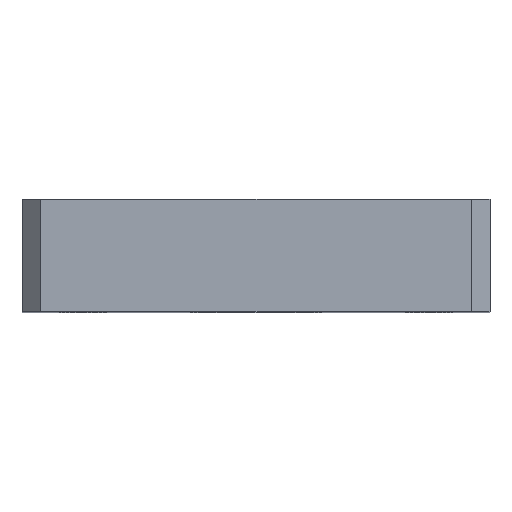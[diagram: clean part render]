
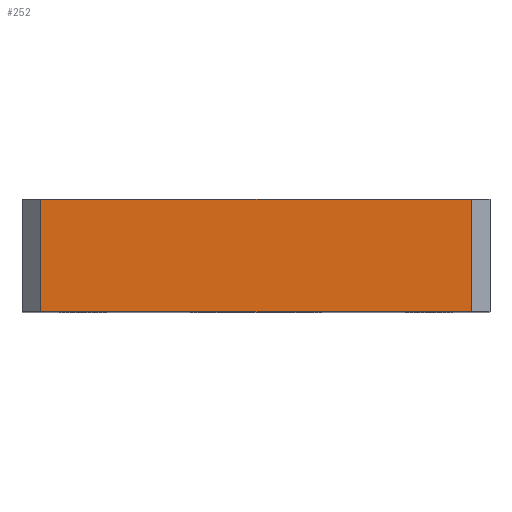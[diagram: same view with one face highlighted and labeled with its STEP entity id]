
A CAD part, top view. The second image highlights one B-rep face of the part: STEP entity #252.
In plain terms, the highlighted planar face has unit normal (0, 0, 1).
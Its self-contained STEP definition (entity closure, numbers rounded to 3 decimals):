
#47 = DIRECTION ( 'NONE',  ( -1., 0., 0. ) ) ;
#60 = LINE ( 'NONE', #290, #62 ) ;
#62 = VECTOR ( 'NONE', #510, 1000. ) ;
#69 = ORIENTED_EDGE ( 'NONE', *, *, #542, .T. ) ;
#74 = VECTOR ( 'NONE', #83, 1000. ) ;
#83 = DIRECTION ( 'NONE',  ( 1., 0., 0. ) ) ;
#87 = DIRECTION ( 'NONE',  ( 0., -1., 0. ) ) ;
#101 = CARTESIAN_POINT ( 'NONE',  ( 25., 12., 25. ) ) ;
#129 = EDGE_CURVE ( 'NONE', #173, #662, #474, .T. ) ;
#134 = VERTEX_POINT ( 'NONE', #596 ) ;
#161 = EDGE_LOOP ( 'NONE', ( #543, #69, #369, #251 ) ) ;
#173 = VERTEX_POINT ( 'NONE', #540 ) ;
#214 = VECTOR ( 'NONE', #223, 1000. ) ;
#223 = DIRECTION ( 'NONE',  ( 1., 0., 0. ) ) ;
#251 = ORIENTED_EDGE ( 'NONE', *, *, #508, .T. ) ;
#252 = ADVANCED_FACE ( 'NONE', ( #623 ), #505, .F. ) ;
#286 = EDGE_CURVE ( 'NONE', #134, #625, #555, .T. ) ;
#290 = CARTESIAN_POINT ( 'NONE',  ( 23., 12., 25. ) ) ;
#317 = DIRECTION ( 'NONE',  ( 0., 0., -1. ) ) ;
#369 = ORIENTED_EDGE ( 'NONE', *, *, #129, .T. ) ;
#405 = CARTESIAN_POINT ( 'NONE',  ( -23., 12., 25. ) ) ;
#431 = AXIS2_PLACEMENT_3D ( 'NONE', #615, #317, #47 ) ;
#474 = LINE ( 'NONE', #656, #74 ) ;
#497 = CARTESIAN_POINT ( 'NONE',  ( 23., 12., 25. ) ) ;
#505 = PLANE ( 'NONE',  #431 ) ;
#508 = EDGE_CURVE ( 'NONE', #662, #625, #60, .T. ) ;
#510 = DIRECTION ( 'NONE',  ( 0., 1., 0. ) ) ;
#540 = CARTESIAN_POINT ( 'NONE',  ( -23., 0., 25. ) ) ;
#542 = EDGE_CURVE ( 'NONE', #134, #173, #664, .T. ) ;
#543 = ORIENTED_EDGE ( 'NONE', *, *, #286, .F. ) ;
#548 = CARTESIAN_POINT ( 'NONE',  ( 23., 0., 25. ) ) ;
#555 = LINE ( 'NONE', #101, #214 ) ;
#596 = CARTESIAN_POINT ( 'NONE',  ( -23., 12., 25. ) ) ;
#615 = CARTESIAN_POINT ( 'NONE',  ( 25., 12., 25. ) ) ;
#623 = FACE_OUTER_BOUND ( 'NONE', #161, .T. ) ;
#625 = VERTEX_POINT ( 'NONE', #497 ) ;
#656 = CARTESIAN_POINT ( 'NONE',  ( 25., 0., 25. ) ) ;
#662 = VERTEX_POINT ( 'NONE', #548 ) ;
#664 = LINE ( 'NONE', #405, #673 ) ;
#673 = VECTOR ( 'NONE', #87, 1000. ) ;
